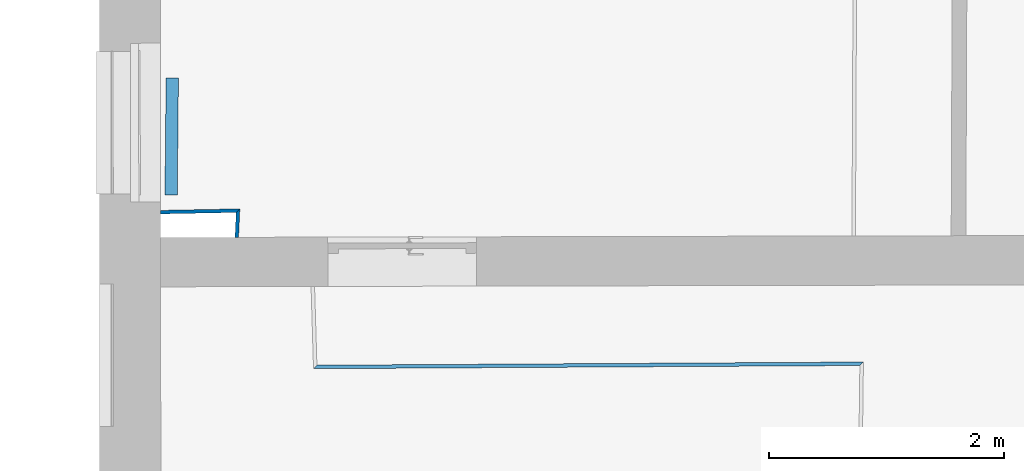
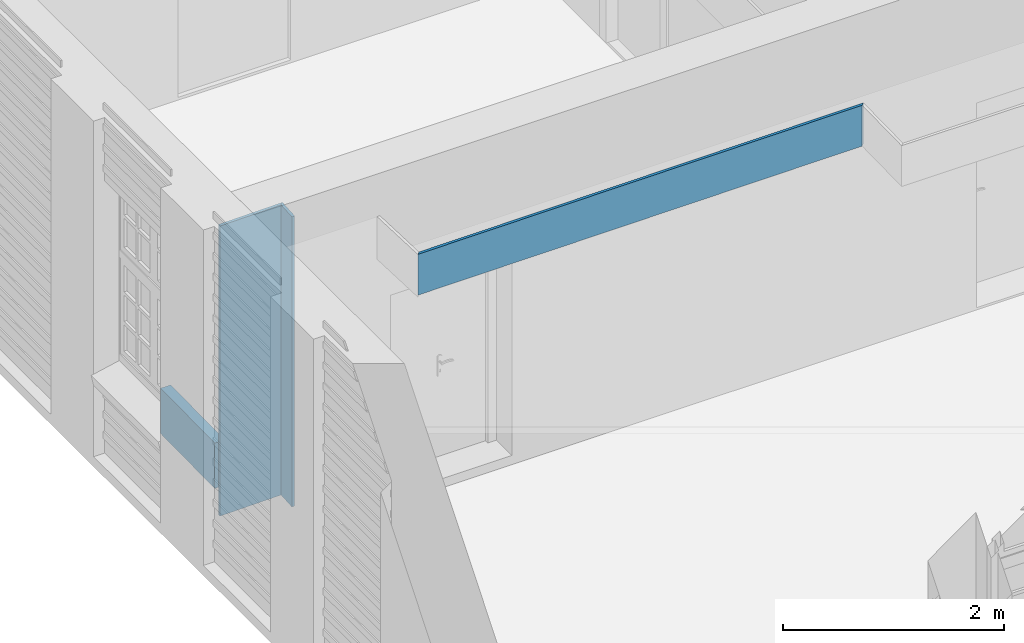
# One storey, part 14 of 158: 4 walls.
"""IFC2X3 building model written with IfcOpenShell, lengths in metres."""

from ifc_helpers import new_model, entity, si_unit, converted_unit, derived_unit, money_unit, direction, frame, origin_with_axes, place, context, subcontext, project, spatial, polyline, outline, extrude, material, layer, layer_set, layer_usage, type_object, element, save


model = new_model("IFC2X3")

# Units and contexts
model_context = context("Model", 3, precision=1e-05, world=origin_with_axes(), true_north=direction((0.0, 1.0)))
body_context = subcontext(model_context, "Body", "Model", "MODEL_VIEW")
ifc_project = project(units=[si_unit("LENGTHUNIT", "METRE"), si_unit("AREAUNIT", "SQUARE_METRE"), si_unit("VOLUMEUNIT", "CUBIC_METRE"), converted_unit("PLANEANGLEUNIT", "DEGREE", entity("IfcPlaneAngleMeasure", 0.0174532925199), si_unit("PLANEANGLEUNIT", "RADIAN"), dimensions=[0, 0, 0, 0, 0, 0, 0]), money_unit("EUR"), converted_unit("TIMEUNIT", "Year", entity("IfcTimeMeasure", 31556926.0), si_unit("TIMEUNIT", "SECOND"), dimensions=[0, 0, 1, 0, 0, 0, 0]), si_unit("MASSUNIT", "GRAM", prefix="KILO"), si_unit("THERMODYNAMICTEMPERATUREUNIT", "DEGREE_CELSIUS"), si_unit("LUMINOUSINTENSITYUNIT", "LUMEN"), si_unit("ENERGYUNIT", "JOULE", prefix="MEGA"), derived_unit("THERMALCONDUCTANCEUNIT", [(si_unit("POWERUNIT", "WATT"), 1), (si_unit("LENGTHUNIT", "METRE"), -1), (si_unit("THERMODYNAMICTEMPERATUREUNIT", "KELVIN"), -1)]), derived_unit("SPECIFICHEATCAPACITYUNIT", [(si_unit("ENERGYUNIT", "JOULE"), 1), (si_unit("MASSUNIT", "GRAM", prefix="KILO"), -1), (si_unit("THERMODYNAMICTEMPERATUREUNIT", "KELVIN"), -1)]), derived_unit("MASSDENSITYUNIT", [(si_unit("MASSUNIT", "GRAM", prefix="KILO"), 1), (si_unit("VOLUMEUNIT", "CUBIC_METRE"), -1)])], contexts=[model_context])

# Site, building, storey
site_placement = place(None, origin_with_axes())
site = spatial("IfcSite", under=ifc_project, at=site_placement, Name="Gelände", CompositionType="ELEMENT")
building_placement = place(site_placement, origin_with_axes())
building = spatial("IfcBuilding", under=site, at=building_placement, Name="Gebäude", CompositionType="ELEMENT")
storey_placement = place(building_placement, origin_with_axes())
storey = spatial("IfcBuildingStorey", under=building, at=storey_placement, Name="ERDGESCHOSS", CompositionType="ELEMENT", Elevation=0.0)

# Walls
ifc_material_1 = material(Name="43_Gipskarton")
ifc_layer_1 = layer(ifc_material_1, 0.03, ventilated="UNKNOWN")
ifc_layer_set_1 = layer_set([ifc_layer_1], Name="43_Gipskarton 0.03")
ifc_layer_usage_1 = layer_usage(ifc_layer_set_1, "AXIS2", "NEGATIVE", 0.03)
wall_type_1 = type_object("IfcWallType", Name="43_Gipskarton 30", PredefinedType="ELEMENTEDWALL")
wall_1_placement = place(storey_placement, frame((-26.8729248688, 13.1750081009, -0.1), z_axis=(0.0, 0.0, 1.0), x_axis=(0.0469594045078, 0.998896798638, 0.0)))
element("IfcWallStandardCase", 1, at=wall_1_placement, inside=storey, type_object=wall_type_1, material=ifc_layer_usage_1, Name="Wand-035", ObjectType="ELEMENTEDWALL", context=body_context, shape_type="SweptSolid", body=[
    extrude(outline(polyline([(0.0, 0.0), (0.242722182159, 0.0), (0.210655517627, 0.03), (-0.00147678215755, 0.03), (0.0, 0.0)])), origin_with_axes(), (0.0, 0.0, 1.0), 3.2),
])
ifc_layer_usage_2 = layer_usage(ifc_layer_set_1, "AXIS2", "NEGATIVE", 0.03)
wall_2_placement = place(storey_placement, frame((-26.8615267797, 13.4174625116, -0.1), z_axis=(0.0, 0.0, 1.0), x_axis=(-0.999808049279, -0.0195924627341, 0.0)))
element("IfcWallStandardCase", 2, at=wall_2_placement, inside=storey, type_object=wall_type_1, material=ifc_layer_usage_2, Name="Wand-036", ObjectType="ELEMENTEDWALL", context=body_context, shape_type="SweptSolid", body=[
    extrude(outline(polyline([(0.0, 0.0), (0.675531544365, 0.0), (0.676091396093, 0.03), (0.0320666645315, 0.03), (0.0, 0.0)])), origin_with_axes(), (0.0, 0.0, 1.0), 3.2),
])
ifc_layer_usage_3 = layer_usage(ifc_layer_set_1, "AXIS2", "NEGATIVE", 0.03)
wall_3_placement = place(storey_placement, frame((-26.2347375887, 12.0561486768, 2.68), z_axis=(0.0, 0.0, 1.0), x_axis=(0.999982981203, 0.00583414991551, 0.0)))
element("IfcWallStandardCase", 3, at=wall_3_placement, inside=storey, type_object=wall_type_1, material=ifc_layer_usage_3, Name="Wand-039", ObjectType="ELEMENTEDWALL", context=body_context, shape_type="SweptSolid", body=[
    extrude(outline(polyline([(0.0, 0.0), (4.65213854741, 0.0), (4.68270006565, 0.03), (0.0292868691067, 0.03), (0.0, 0.0)])), origin_with_axes(), (0.0, 0.0, 1.0), 0.45),
])
ifc_material_2 = material(Name="01_ALLGEMEIN - BAUTEIL")
ifc_layer_2 = layer(ifc_material_2, 0.105, ventilated="UNKNOWN")
ifc_layer_set_2 = layer_set([ifc_layer_2], Name="01_ALLGEMEIN - BAUTEIL 0.105")
ifc_layer_usage_4 = layer_usage(ifc_layer_set_2, "AXIS2", "NEGATIVE", 0.0)
wall_type_2 = type_object("IfcWallType", Name="01_ALLGEMEIN - BAUTEIL 105", PredefinedType="ELEMENTEDWALL")
wall_4_placement = place(storey_placement, frame((-27.3848598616, 14.5296008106, 0.0935706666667), z_axis=(0.0, 0.0, 1.0), x_axis=(-0.00969335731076, -0.999953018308, 0.0)))
element("IfcWallStandardCase", 4, at=wall_4_placement, inside=storey, type_object=wall_type_2, material=ifc_layer_usage_4, Name="Wand-041", ObjectType="ELEMENTEDWALL", context=body_context, shape_type="SweptSolid", body=[
    extrude(outline(polyline([(0.0, -0.105), (0.994452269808, -0.105), (0.994452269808, 0.0), (0.0, 0.0), (0.0, -0.105)])), origin_with_axes(), (0.0, 0.0, 1.0), 0.501014),
])

save(model, "model.ifc")
